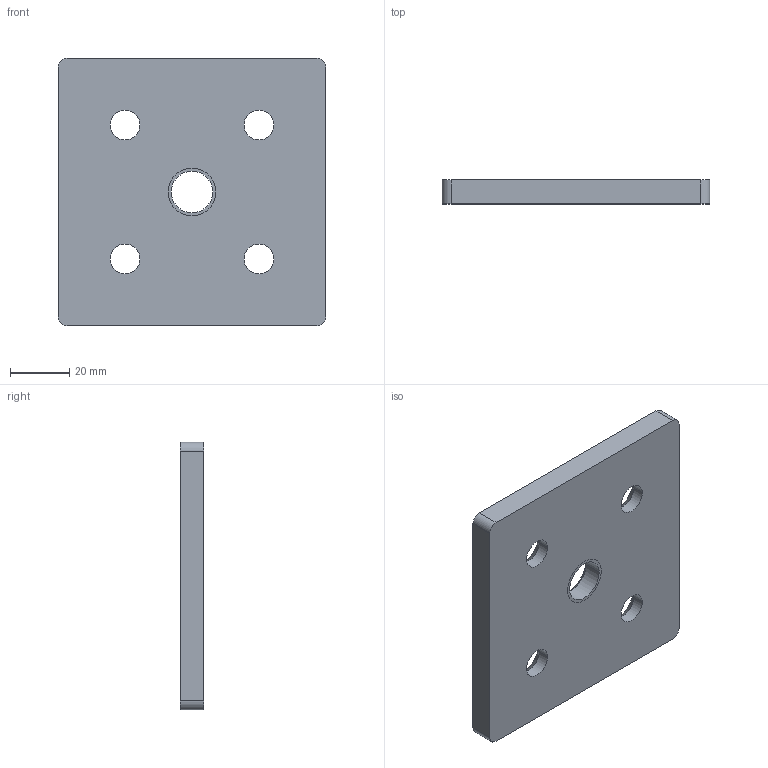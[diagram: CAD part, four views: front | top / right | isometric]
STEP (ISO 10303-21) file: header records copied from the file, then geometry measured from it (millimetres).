
FILE_DESCRIPTION((''),'2;1');
FILE_NAME('TAF909016','2002-12-27T',('Lipro doo'),('Lipro d.o.o.'),'PRO/ENGINEER BY PARAMETRIC TECHNOLOGY CORPORATION, 2001150','PRO/ENGINEER BY PARAMETRIC TECHNOLOGY CORPORATION, 2001150','');
FILE_SCHEMA(('CONFIG_CONTROL_DESIGN'));
Length unit declared in the file: millimetre
Products named in the file (1): TAF909016
Bounding box: 90 x 8 x 90 mm (x, y, z)
Volume: 59647.1 mm3; surface area: 19556.5 mm2
Topology: 1 solids, 2 shells, 32 faces, 80 edges, 50 vertices
Faces by surface type: cylinder 16, cone 10, plane 6
Entity records: 1030 total; most frequent: DIRECTION 188, CARTESIAN_POINT 163, ORIENTED_EDGE 156, EDGE_CURVE 80, AXIS2_PLACEMENT_3D 75, VERTEX_POINT 50, EDGE_LOOP 42, CIRCLE 42
